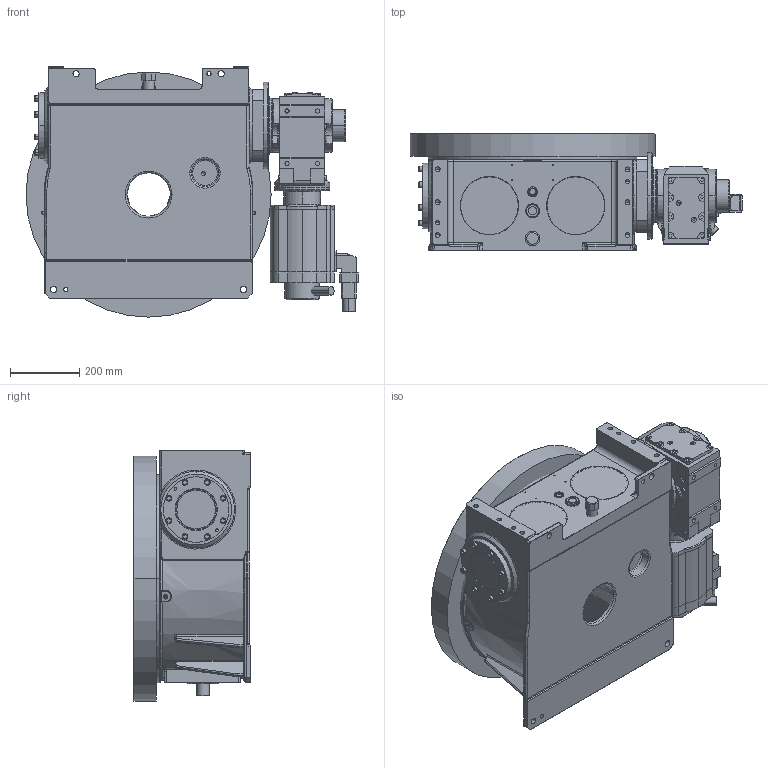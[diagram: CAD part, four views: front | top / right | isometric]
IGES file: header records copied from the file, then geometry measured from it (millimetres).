
Start section:  PTC IGES file: a6394.igs
Global section: file name: a6394.igs; native system: Pro/ENGINEER by Parametric Technology Corporation; preprocessor: 2006140; author: mueller; organization: Unknown; date: 20061129.082527; units: millimetre
Bounding box: 961.5 x 340 x 725 mm (x, y, z)
Surface area: 4827487.7 mm2 (no closed solid volume)
Topology: 0 solids, 0 shells, 1805 faces, 8758 edges, 8666 vertices
Faces by surface type: revolution 1104, bspline 701
